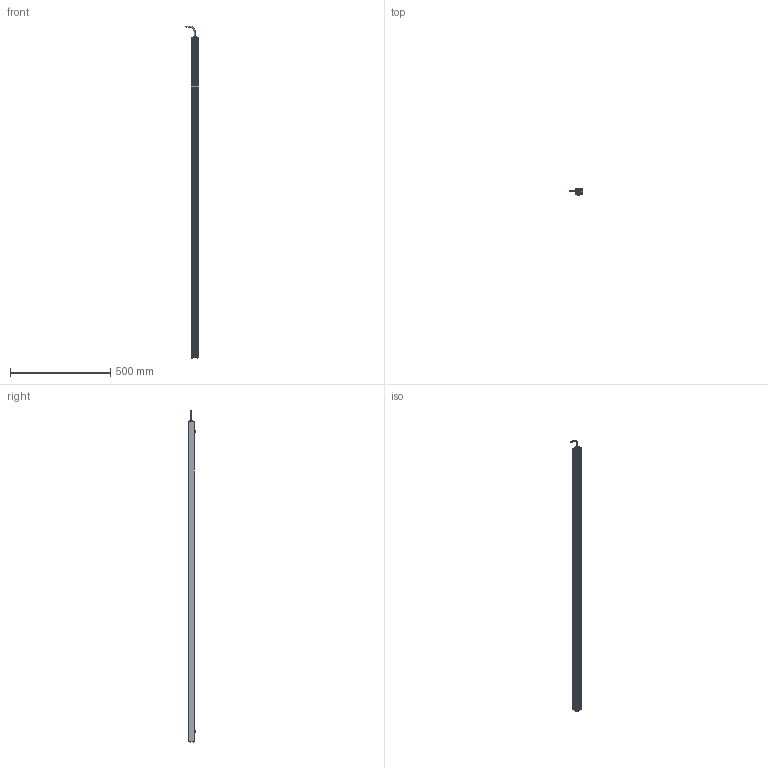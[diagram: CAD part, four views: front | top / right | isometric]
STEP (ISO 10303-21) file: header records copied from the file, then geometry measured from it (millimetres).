
FILE_DESCRIPTION (( 'STEP AP214' ), '1' );
FILE_NAME ('AL150XXXX_AL150366.stp', '2021-04-29T15:41:51', ( '' ), ( '' ), 'SwSTEP 2.0', 'SolidWorks 2018', '' );
FILE_SCHEMA (( 'AUTOMOTIVE_DESIGN' ));
Length unit declared in the file: inch
Products named in the file (12): 116-02-006; 150-01-005-XXX_150-01-005-366; 150-03-006-XXXX_150-03-006-366; Part1^AL150XXXX; Part2^AL150XXXX; AL150XXXX_AL150366; HN-M6_90592A016; 092408_TRUNCATED; 1157 (no strap); 116-02-007; CHM6x8_91460A312; 093145_93701A253
Assembly tree (18 placements, depth 2):
  Part1^AL150XXXX
  Part2^AL150XXXX
  AL150XXXX_AL150366
    150-01-005-XXX_150-01-005-366
    116-02-006
    093145_93701A253  x8
    HN-M6_90592A016  x2
    CHM6x8_91460A312  x2
    150-03-006-XXXX_150-03-006-366
    116-02-007
    1157 (no strap)
    092408_TRUNCATED
Bounding box: 60.68 x 33.84 x 1656.38 mm (x, y, z)
Volume: 495689.3 mm3; surface area: 523703.6 mm2
Topology: 26 solids, 26 shells, 1306 faces, 3436 edges, 2127 vertices
Faces by surface type: cylinder 805, cone 249, plane 153, torus 59, bspline 32, sphere 8
Entity records: 18285 total; most frequent: CARTESIAN_POINT 6069, ORIENTED_EDGE 2496, DIRECTION 2311, EDGE_CURVE 1248, AXIS2_PLACEMENT_3D 881, VERTEX_POINT 800, VECTOR 549, LINE 549
